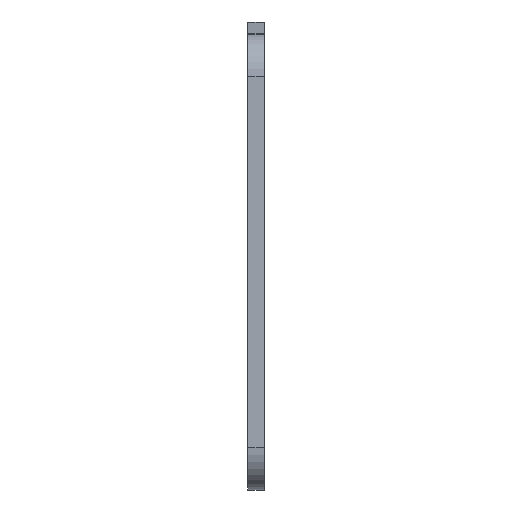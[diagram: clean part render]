
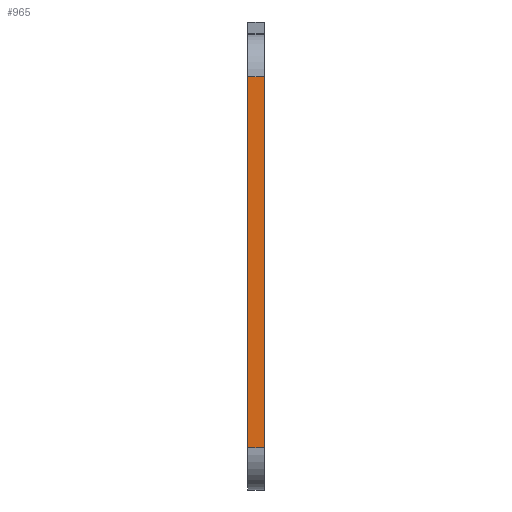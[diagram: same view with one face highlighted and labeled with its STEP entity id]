
A CAD part, front view. The second image highlights one B-rep face of the part: STEP entity #965.
In plain terms, the highlighted planar face has unit normal (0, -1, 0).
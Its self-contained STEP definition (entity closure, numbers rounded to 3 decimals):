
#42=PLANE('',#1067);
#63=FACE_OUTER_BOUND('',#125,.T.);
#125=EDGE_LOOP('',(#699,#700,#701,#702));
#185=LINE('',#1457,#270);
#187=LINE('',#1463,#272);
#205=LINE('',#1551,#290);
#206=LINE('',#1552,#291);
#270=VECTOR('',#1152,10.);
#272=VECTOR('',#1158,10.);
#290=VECTOR('',#1230,10.);
#291=VECTOR('',#1231,10.);
#414=VERTEX_POINT('',#1454);
#415=VERTEX_POINT('',#1456);
#417=VERTEX_POINT('',#1462);
#460=VERTEX_POINT('',#1550);
#508=EDGE_CURVE('',#414,#415,#185,.T.);
#511=EDGE_CURVE('',#415,#417,#187,.T.);
#555=EDGE_CURVE('',#414,#460,#205,.T.);
#556=EDGE_CURVE('',#417,#460,#206,.T.);
#699=ORIENTED_EDGE('',*,*,#508,.F.);
#700=ORIENTED_EDGE('',*,*,#555,.T.);
#701=ORIENTED_EDGE('',*,*,#556,.F.);
#702=ORIENTED_EDGE('',*,*,#511,.F.);
#965=ADVANCED_FACE('',(#63),#42,.T.);
#1067=AXIS2_PLACEMENT_3D('',#1549,#1228,#1229);
#1152=DIRECTION('',(1.,0.,0.));
#1158=DIRECTION('',(0.,0.,-1.));
#1228=DIRECTION('center_axis',(0.,-1.,0.));
#1229=DIRECTION('ref_axis',(0.,0.,-1.));
#1230=DIRECTION('',(0.,0.,-1.));
#1231=DIRECTION('',(-1.,0.,0.));
#1454=CARTESIAN_POINT('',(0.,-50.,48.3));
#1456=CARTESIAN_POINT('',(4.,-50.,48.3));
#1457=CARTESIAN_POINT('',(2.,-50.,48.3));
#1462=CARTESIAN_POINT('',(4.,-50.,-40.));
#1463=CARTESIAN_POINT('',(4.,-50.,61.3));
#1549=CARTESIAN_POINT('Origin',(0.,-50.,61.3));
#1550=CARTESIAN_POINT('',(0.,-50.,-40.));
#1551=CARTESIAN_POINT('',(0.,-50.,61.3));
#1552=CARTESIAN_POINT('',(0.,-50.,-40.));
